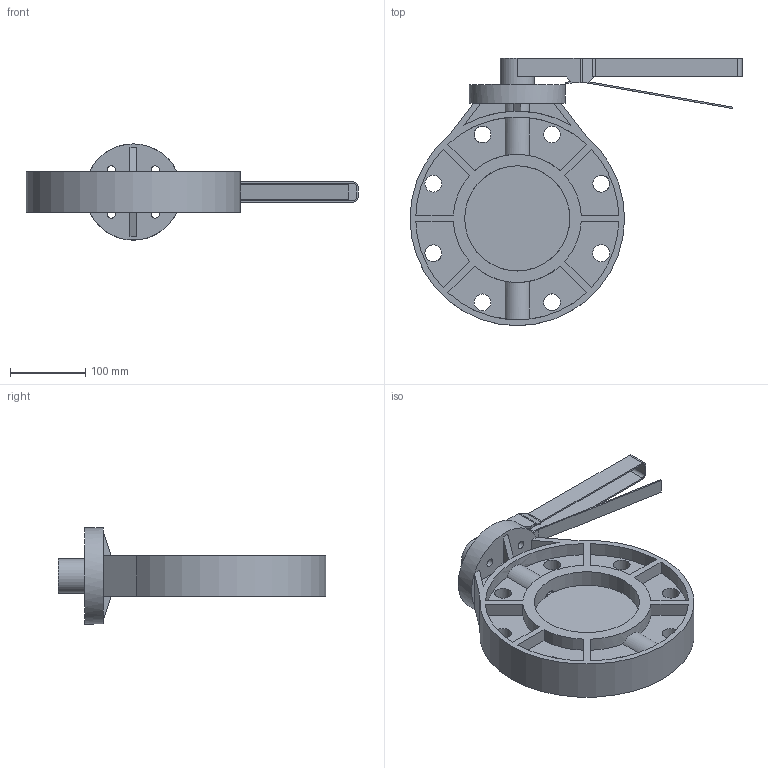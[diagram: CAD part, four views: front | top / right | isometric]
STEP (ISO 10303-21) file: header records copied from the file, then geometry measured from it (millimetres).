
FILE_DESCRIPTION (( 'STEP AP214' ), '1' );
FILE_NAME ('311N - 6 Inch Assem.STEP', '2020-12-08T09:36:08', ( '' ), ( '' ), 'SwSTEP 2.0', 'SolidWorks 2019', '' );
FILE_SCHEMA (( 'AUTOMOTIVE_DESIGN' ));
Length unit declared in the file: millimetre
Products named in the file (1): 311N - 6 Inch Assem
Bounding box: 440.93 x 355.21 x 127.76 mm (x, y, z)
Volume: 2091089.2 mm3; surface area: 403081.1 mm2
Topology: 4 solids, 4 shells, 196 faces, 509 edges, 336 vertices
Faces by surface type: plane 119, cylinder 77
Full cylindrical faces by diameter (mm): 11.125 x4, 18.875 x3, 22.352 x8, 45.72 x1, 127.762 x1, 139.7 x1
Entity records: 8713 total; most frequent: CARTESIAN_POINT 1685, DIRECTION 1002, ORIENTED_EDGE 958, EDGE_CURVE 479, AXIS2_PLACEMENT_3D 354, VERTEX_POINT 325, VECTOR 294, LINE 294
